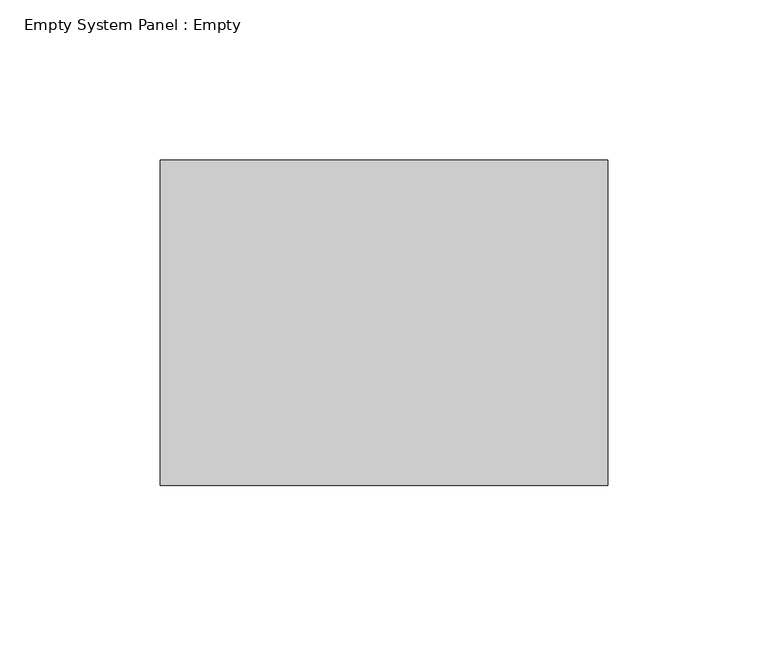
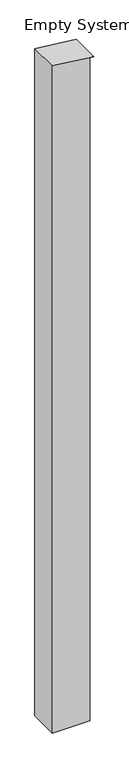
"""IFC4 building model written with IfcOpenShell, lengths in millimetres: plate geometry, Empty System Panel : Empty."""

import ifcopenshell
import ifcopenshell.guid

model = None  # the IFC model being written
_history = None  # IfcOwnerHistory: only IFC2X3 demands one
_inside = {}  # id of a spatial element -> (the spatial element, [elements in it])
_under = {}  # id of a project, library or spatial element -> (it, [spatial elements below it])
_declared = {}  # id of a project -> (the project, [libraries it declares])
_typed = {}  # id of a type object -> (the type object, [elements of that type])
_made_of = {}  # id of a material, layer set ... -> (it, [elements and type objects made of it])


def new_model(schema):
    """Start an empty IFC model of exactly this schema.

    Asked for "IFC4X3", IfcOpenShell would pick the latest addendum, in which some entities
    have other attributes; the version numbers below select the first issue.
    IFC2X3 requires an IfcOwnerHistory on every rooted entity: one is made here for all.
    """
    global model, _history
    if schema == "IFC4X3":
        model = ifcopenshell.file(schema_version=(4, 3, 0, 0))
    else:
        model = ifcopenshell.file(schema=schema)
    _inside.clear()
    _under.clear()
    _declared.clear()
    _typed.clear()
    _made_of.clear()
    _history = None
    if model.schema == "IFC2X3":
        org = make("IfcOrganization", Name="unknown")
        user = make(
            "IfcPersonAndOrganization",
            ThePerson=make("IfcPerson", FamilyName="unknown"),
            TheOrganization=org,
        )
        app = make(
            "IfcApplication",
            ApplicationDeveloper=org,
            Version="unknown",
            ApplicationFullName="unknown",
            ApplicationIdentifier="unknown",
        )
        _history = make(
            "IfcOwnerHistory",
            OwningUser=user,
            OwningApplication=app,
            ChangeAction="ADDED",
            CreationDate=0,
        )
    return model


def make(cls, **values):
    """One entity of the class cls with the attributes given. An attribute that is None is left unset."""
    return model.create_entity(
        cls, **{name: value for name, value in values.items() if value is not None}
    )


def rooted(cls, **values):
    """An entity with a GlobalId (a new one), such as an element, a storey or a relation."""
    return make(cls, GlobalId=ifcopenshell.guid.new(), OwnerHistory=_history, **values)


def si_unit(unit_type, name, prefix=None):
    """IfcSIUnit, for example si_unit("LENGTHUNIT", "METRE", prefix="MILLI")."""
    return make("IfcSIUnit", UnitType=unit_type, Prefix=prefix, Name=name)


def assignment(units):
    """IfcUnitAssignment: the units of a project."""
    return None if units is None else make("IfcUnitAssignment", Units=units)


def point(xyz):
    """IfcCartesianPoint."""
    return None if xyz is None else make("IfcCartesianPoint", Coordinates=xyz)


def direction(xyz):
    """IfcDirection."""
    return None if xyz is None else make("IfcDirection", DirectionRatios=xyz)


def frame(location, z_axis=None, x_axis=None):
    """IfcAxis2Placement3D, a coordinate frame: its origin and axes. An axis left out is left unset."""
    return make(
        "IfcAxis2Placement3D",
        Location=point(location),
        Axis=direction(z_axis),
        RefDirection=direction(x_axis),
    )


def origin():
    """The frame at (0, 0, 0) with its axes left unset."""
    return frame((0.0, 0.0, 0.0))


def place(relative_to, where):
    """IfcLocalPlacement: puts the frame where relative to a parent placement (None: the world)."""
    return make(
        "IfcLocalPlacement", PlacementRelTo=relative_to, RelativePlacement=where
    )


def context(
    kind, dimensions, precision=None, world=None, true_north=None, identifier=None
):
    """IfcGeometricRepresentationContext, for example the 3D "Model" context."""
    return make(
        "IfcGeometricRepresentationContext",
        ContextIdentifier=identifier,
        ContextType=kind,
        CoordinateSpaceDimension=dimensions,
        Precision=precision,
        WorldCoordinateSystem=world,
        TrueNorth=true_north,
    )


def project(units=None, contexts=None):
    """IfcProject with its units and contexts."""
    return rooted(
        "IfcProject",
        Name="project",
        RepresentationContexts=contexts,
        UnitsInContext=assignment(units),
    )


def spatial(cls, under=None, at=None, **own):
    """A site, building, storey or space (cls), placed at a placement, below another one or the project."""
    s = rooted(cls, ObjectPlacement=at, **own)
    if under is not None:
        _under.setdefault(under.id(), (under, []))[1].append(s)
    return s


def polyline(points):
    """IfcPolyline through the points."""
    return make("IfcPolyline", Points=[point(p) for p in points])


def outline(outer, holes=None, kind="AREA"):
    """IfcArbitraryClosedProfileDef: a profile drawn as a closed curve; with holes, ...WithVoids."""
    if holes is None:
        return make("IfcArbitraryClosedProfileDef", ProfileType=kind, OuterCurve=outer)
    return make(
        "IfcArbitraryProfileDefWithVoids",
        ProfileType=kind,
        OuterCurve=outer,
        InnerCurves=holes,
    )


def extrude(swept, where, along, depth):
    """IfcExtrudedAreaSolid: the profile swept, set in the frame where, extruded along a direction by depth."""
    return make(
        "IfcExtrudedAreaSolid",
        SweptArea=swept,
        Position=where,
        ExtrudedDirection=direction(along),
        Depth=depth,
    )


def shape(context_of_items, identifier, shape_type, items):
    """IfcShapeRepresentation: the items that make up one representation, for example the "Body"."""
    return make(
        "IfcShapeRepresentation",
        ContextOfItems=context_of_items,
        RepresentationIdentifier=identifier,
        RepresentationType=shape_type,
        Items=items,
    )


def source(mapping_origin, context_of_items, identifier, shape_type, items):
    """IfcRepresentationMap: a shape defined once, which mapped items show again and again."""
    return make(
        "IfcRepresentationMap",
        MappingOrigin=mapping_origin,
        MappedRepresentation=shape(context_of_items, identifier, shape_type, items),
    )


def transform(
    local_origin,
    x_axis=None,
    y_axis=None,
    z_axis=None,
    scale=None,
    scale2=None,
    scale3=None,
    uniform=True,
):
    """IfcCartesianTransformationOperator3D, or its non-uniform kind. x_axis, y_axis, z_axis: its Axis1, 2, 3."""
    if uniform:
        return make(
            "IfcCartesianTransformationOperator3D",
            Axis1=direction(x_axis),
            Axis2=direction(y_axis),
            LocalOrigin=point(local_origin),
            Scale=scale,
            Axis3=direction(z_axis),
        )
    return make(
        "IfcCartesianTransformationOperator3DnonUniform",
        Axis1=direction(x_axis),
        Axis2=direction(y_axis),
        LocalOrigin=point(local_origin),
        Scale=scale,
        Axis3=direction(z_axis),
        Scale2=scale2,
        Scale3=scale3,
    )


def mapped(mapping_source, mapping_target):
    """IfcMappedItem: shows the shape of a source again, moved by a transform."""
    return make(
        "IfcMappedItem", MappingSource=mapping_source, MappingTarget=mapping_target
    )


def made_of(thing, what):
    """Note that an element or type object is made of a material, layer set ...; save() writes the relation."""
    if what is not None:
        _made_of.setdefault(what.id(), (what, []))[1].append(thing)
    return thing


def element(
    cls,
    number,
    at=None,
    inside=None,
    cuts=None,
    type_object=None,
    material=None,
    context=None,
    identifier="Body",
    shape_type=None,
    held_by="IfcProductDefinitionShape",
    body=None,
    shapes=None,
    **own,
):
    """One element of the class cls, such as IfcWall. Its Tag is "e" and its number.

    at: its placement. inside: the storey or other place that contains it. cuts: it is an
    opening in that element (IfcRelVoidsElement). A single representation is given by context,
    identifier, shape_type and body (its items); several are given by shapes. held_by: the class
    of the entity that holds the representations. save() writes the other relations.
    """
    e = rooted(cls, Tag="e%d" % number, ObjectPlacement=at, **own)
    if body is not None:
        shapes = [shape(context, identifier, shape_type, body)]
    if shapes is not None:
        e.Representation = make(held_by, Representations=shapes)
    if inside is not None:
        _inside.setdefault(inside.id(), (inside, []))[1].append(e)
    if cuts is not None:
        rooted(
            "IfcRelVoidsElement", RelatingBuildingElement=cuts, RelatedOpeningElement=e
        )
    if type_object is not None:
        _typed.setdefault(type_object.id(), (type_object, []))[1].append(e)
    return made_of(e, material)


def aggregate(whole, parts):
    """IfcRelAggregates: a whole, such as a stair, and the parts it consists of."""
    return rooted("IfcRelAggregates", RelatingObject=whole, RelatedObjects=parts)


def save(model, path):
    """Write the relations noted so far, then the file.

    IfcRelAggregates (storeys below a building ...), IfcRelContainedInSpatialStructure (elements
    in a storey), IfcRelDefinesByType, IfcRelAssociatesMaterial and IfcRelDeclares: one each for
    every whole, place, type object, material and project.
    """
    for whole, parts in _under.values():
        aggregate(whole, parts)
    for where, things in _inside.values():
        rooted(
            "IfcRelContainedInSpatialStructure",
            RelatedElements=things,
            RelatingStructure=where,
        )
    for kind, things in _typed.values():
        rooted("IfcRelDefinesByType", RelatedObjects=things, RelatingType=kind)
    for what, things in _made_of.values():
        rooted("IfcRelAssociatesMaterial", RelatedObjects=things, RelatingMaterial=what)
    for by, libraries in _declared.values():
        rooted("IfcRelDeclares", RelatingContext=by, RelatedDefinitions=libraries)
    model.write(path)


def empty_system_panel_empty_5a8ab7e0(model_context):
    return source(origin(), model_context, "Body", "SweptSolid", [
        extrude(outline(polyline([(0.0, -69.85), (0.0, 57.15), (2366.3521309, 57.15), (2366.3521309, 69.85), (2381.9773209, -69.85), (0.0, -69.85)])), frame((0.0, -50.8, 0.0), z_axis=(0.0, 1.0, 0.0), x_axis=(0.0, 0.0, 1.0)), (0.0, 0.0, 1.0), 101.6),
    ])


if __name__ == "__main__":
    model = new_model("IFC4")
    model_context = context("Model", 3, world=origin())
    ifc_project = project(units=[si_unit("LENGTHUNIT", "METRE", prefix="MILLI")], contexts=[model_context])
    site = spatial("IfcSite", under=ifc_project)
    building = spatial("IfcBuilding", under=site)
    placement = place(None, origin())
    empty_system_panel_empty_shape = empty_system_panel_empty_5a8ab7e0(model_context)
    element("IfcPlate", 1, ObjectType="Empty System Panel : Empty", at=placement, inside=building, context=model_context, shape_type="MappedRepresentation", body=[
        mapped(empty_system_panel_empty_shape, transform((0.0, 0.0, 0.0), x_axis=(1.0, 0.0, 0.0), y_axis=(0.0, 1.0, 0.0), z_axis=(0.0, 0.0, 1.0))),
    ])
    save(model, "model.ifc")
